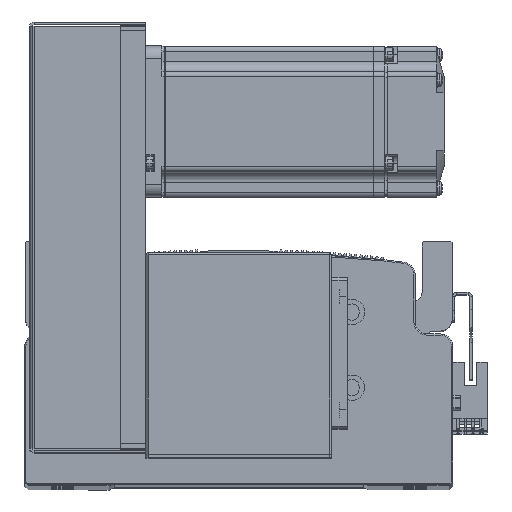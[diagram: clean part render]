
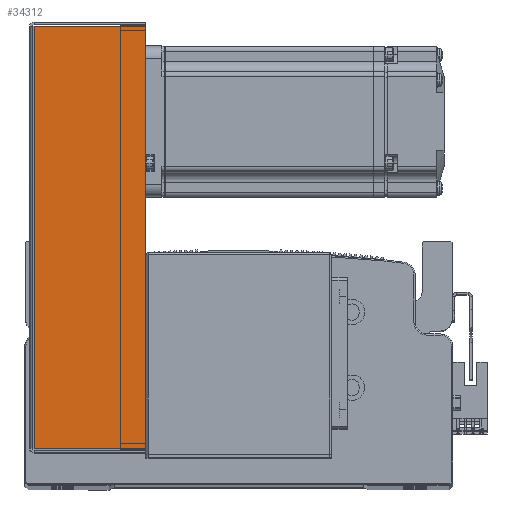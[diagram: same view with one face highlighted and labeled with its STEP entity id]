
A CAD part, top view. The second image highlights one B-rep face of the part: STEP entity #34312.
In plain terms, the highlighted planar face has unit normal (0, 0, 1) as drawn and (0, 0, -1) by its records, which use the part's own axes.
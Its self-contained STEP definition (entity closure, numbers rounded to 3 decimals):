
#10795 = AXIS2_PLACEMENT_3D ( 'NONE', #15328, #15343, #15318 ) ;
#15318 = DIRECTION ( 'NONE',  ( 0., -1., 0. ) ) ;
#15319 = PLANE ( 'NONE',  #10795 ) ;
#15328 = CARTESIAN_POINT ( 'NONE',  ( 0., 0., -40.5 ) ) ;
#15343 = DIRECTION ( 'NONE',  ( 0., 0., 1. ) ) ;
#19443 = FACE_OUTER_BOUND ( 'NONE', #45676, .T. ) ;
#22846 = CARTESIAN_POINT ( 'NONE',  ( 83.793, 0.737, -40.5 ) ) ;
#22879 = CARTESIAN_POINT ( 'NONE',  ( -83.793, 0.737, -40.5 ) ) ;
#22908 = CARTESIAN_POINT ( 'NONE',  ( 83.793, 45., -40.5 ) ) ;
#22992 = CARTESIAN_POINT ( 'NONE',  ( -83.793, 45., -40.5 ) ) ;
#34312 = ADVANCED_FACE ( 'NONE', ( #19443 ), #15319, .F. ) ;
#43333 = EDGE_CURVE ( 'NONE', #54740, #54703, #81699, .T. ) ;
#43391 = EDGE_CURVE ( 'NONE', #54727, #54710, #81840, .T. ) ;
#43412 = EDGE_CURVE ( 'NONE', #54710, #54703, #81870, .T. ) ;
#43424 = EDGE_CURVE ( 'NONE', #54727, #54740, #81969, .T. ) ;
#45676 = EDGE_LOOP ( 'NONE', ( #63174, #63152, #63183, #63093 ) ) ;
#54703 = VERTEX_POINT ( 'NONE', #22908 ) ;
#54710 = VERTEX_POINT ( 'NONE', #22846 ) ;
#54727 = VERTEX_POINT ( 'NONE', #22879 ) ;
#54740 = VERTEX_POINT ( 'NONE', #22992 ) ;
#63093 = ORIENTED_EDGE ( 'NONE', *, *, #43412, .F. ) ;
#63152 = ORIENTED_EDGE ( 'NONE', *, *, #43424, .T. ) ;
#63174 = ORIENTED_EDGE ( 'NONE', *, *, #43391, .F. ) ;
#63183 = ORIENTED_EDGE ( 'NONE', *, *, #43333, .T. ) ;
#80205 = DIRECTION ( 'NONE',  ( 1., 0., 0. ) ) ;
#80246 = CARTESIAN_POINT ( 'NONE',  ( 84.5, 45., -40.5 ) ) ;
#80579 = DIRECTION ( 'NONE',  ( 1., 0., 0. ) ) ;
#80629 = CARTESIAN_POINT ( 'NONE',  ( 0., 0.737, -40.5 ) ) ;
#80746 = CARTESIAN_POINT ( 'NONE',  ( 83.793, 0., -40.5 ) ) ;
#80757 = DIRECTION ( 'NONE',  ( 0., 1., 0. ) ) ;
#80777 = CARTESIAN_POINT ( 'NONE',  ( -83.793, 0., -40.5 ) ) ;
#80779 = DIRECTION ( 'NONE',  ( 0., 1., 0. ) ) ;
#81596 = VECTOR ( 'NONE', #80205, 1000. ) ;
#81699 = LINE ( 'NONE', #80246, #81596 ) ;
#81840 = LINE ( 'NONE', #80629, #81900 ) ;
#81859 = VECTOR ( 'NONE', #80757, 1000. ) ;
#81870 = LINE ( 'NONE', #80746, #81859 ) ;
#81900 = VECTOR ( 'NONE', #80579, 1000. ) ;
#81969 = LINE ( 'NONE', #80777, #81993 ) ;
#81993 = VECTOR ( 'NONE', #80779, 1000. ) ;
